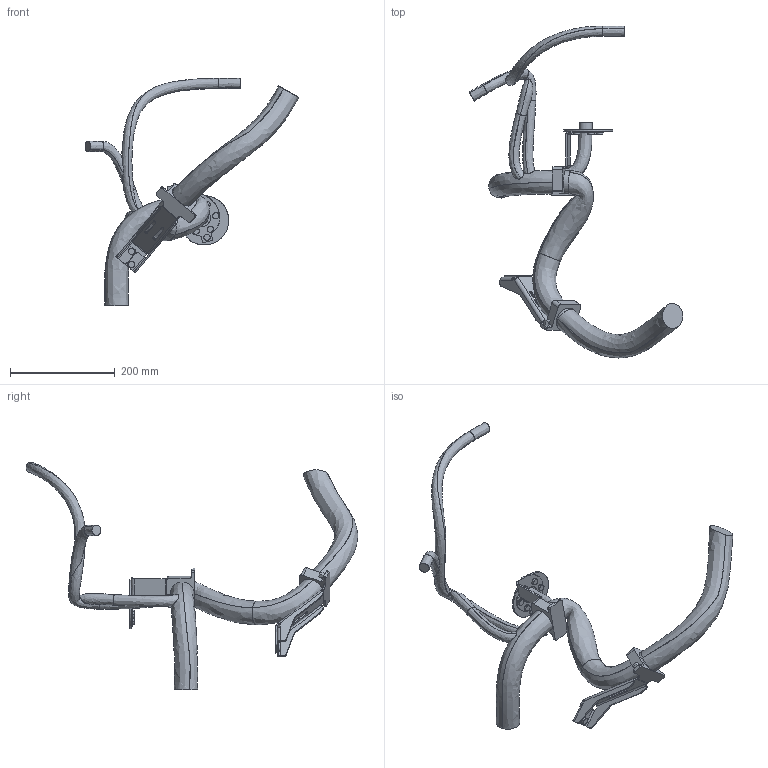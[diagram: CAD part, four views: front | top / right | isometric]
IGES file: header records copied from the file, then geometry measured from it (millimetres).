
Start section: SolidWorks IGES file using analytic representation for surfaces
Global section: file name: C:\DATA\SAP_DOC\LW\IRB 6730\IRB6730-MH3_270kg-270_OC_01_SW_J\Export\IRB6730-MH3_270kg-270_OC_01_IGES_J\IRB6730-MH3_270kg-270_OC_00_LINK01m_CABLE.igs; native system: SolidWorks 2024; preprocessor: SolidWorks 2024; author: SEJOVAS3; date: 260526.113829; units: millimetre
Bounding box: 408.77 x 634.37 x 434.39 mm (x, y, z)
Surface area: 263817.9 mm2 (no closed solid volume)
Topology: 0 solids, 0 shells, 288 faces, 4727 edges, 4727 vertices
Faces by surface type: bspline 178, revolution 110
